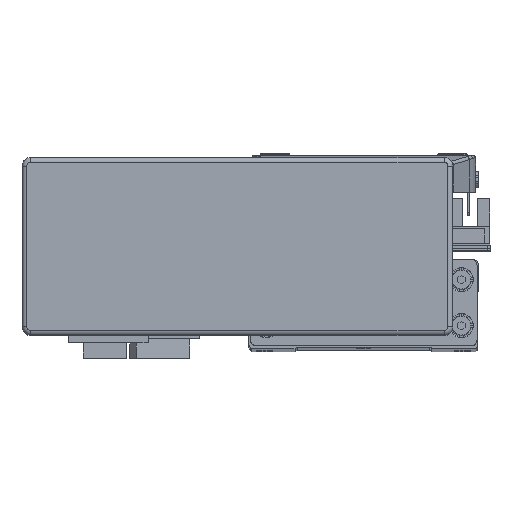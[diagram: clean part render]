
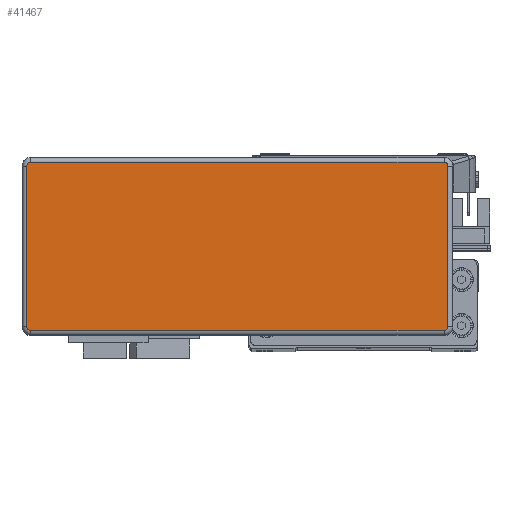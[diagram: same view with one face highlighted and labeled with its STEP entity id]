
A CAD part, top view. The second image highlights one B-rep face of the part: STEP entity #41467.
In plain terms, the highlighted planar face has unit normal (0, 0, 1) as drawn and (0, 0, -1) by its records, which use the part's own axes.
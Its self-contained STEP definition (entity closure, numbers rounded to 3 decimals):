
#3111 = PLANE ( 'NONE',  #5367 ) ;
#3116 = DIRECTION ( 'NONE',  ( 0., 0., 1. ) ) ;
#3137 = CARTESIAN_POINT ( 'NONE',  ( 71.995, -27.995, -32.2 ) ) ;
#3140 = DIRECTION ( 'NONE',  ( 1., 0., 0. ) ) ;
#4293 = FACE_OUTER_BOUND ( 'NONE', #28814, .T. ) ;
#5367 = AXIS2_PLACEMENT_3D ( 'NONE', #3137, #3116, #3140 ) ;
#10775 = VERTEX_POINT ( 'NONE', #22468 ) ;
#10781 = VERTEX_POINT ( 'NONE', #22442 ) ;
#10784 = VERTEX_POINT ( 'NONE', #22475 ) ;
#10785 = VERTEX_POINT ( 'NONE', #22481 ) ;
#10813 = VERTEX_POINT ( 'NONE', #22459 ) ;
#10820 = VERTEX_POINT ( 'NONE', #22453 ) ;
#10821 = VERTEX_POINT ( 'NONE', #22493 ) ;
#10835 = VERTEX_POINT ( 'NONE', #22444 ) ;
#16071 = EDGE_CURVE ( 'NONE', #10784, #10821, #23158, .T. ) ;
#16082 = EDGE_CURVE ( 'NONE', #10785, #10784, #23256, .T. ) ;
#16112 = EDGE_CURVE ( 'NONE', #10775, #10785, #23209, .T. ) ;
#16138 = EDGE_CURVE ( 'NONE', #10813, #10820, #23331, .T. ) ;
#16146 = EDGE_CURVE ( 'NONE', #10820, #10781, #23335, .T. ) ;
#16150 = EDGE_CURVE ( 'NONE', #10835, #10813, #23324, .T. ) ;
#16152 = EDGE_CURVE ( 'NONE', #10821, #10835, #23302, .T. ) ;
#16158 = EDGE_CURVE ( 'NONE', #10781, #10775, #23294, .T. ) ;
#22442 = CARTESIAN_POINT ( 'NONE',  ( 73.295, -27.995, -32.2 ) ) ;
#22444 = CARTESIAN_POINT ( 'NONE',  ( -71.995, 29.295, -32.2 ) ) ;
#22453 = CARTESIAN_POINT ( 'NONE',  ( 73.295, 27.995, -32.2 ) ) ;
#22459 = CARTESIAN_POINT ( 'NONE',  ( 71.995, 29.295, -32.2 ) ) ;
#22468 = CARTESIAN_POINT ( 'NONE',  ( 71.995, -29.295, -32.2 ) ) ;
#22475 = CARTESIAN_POINT ( 'NONE',  ( -73.295, -27.995, -32.2 ) ) ;
#22481 = CARTESIAN_POINT ( 'NONE',  ( -71.995, -29.295, -32.2 ) ) ;
#22493 = CARTESIAN_POINT ( 'NONE',  ( -73.295, 27.995, -32.2 ) ) ;
#23157 = VECTOR ( 'NONE', #27453, 1000. ) ;
#23158 = LINE ( 'NONE', #27405, #23157 ) ;
#23209 = LINE ( 'NONE', #27647, #23235 ) ;
#23235 = VECTOR ( 'NONE', #27584, 1000. ) ;
#23256 = CIRCLE ( 'NONE', #26164, 1.3 ) ;
#23289 = VECTOR ( 'NONE', #27869, 1000. ) ;
#23294 = CIRCLE ( 'NONE', #26148, 1.3 ) ;
#23295 = VECTOR ( 'NONE', #27814, 1000. ) ;
#23302 = CIRCLE ( 'NONE', #26136, 1.3 ) ;
#23324 = LINE ( 'NONE', #27873, #23289 ) ;
#23331 = CIRCLE ( 'NONE', #26174, 1.3 ) ;
#23335 = LINE ( 'NONE', #27835, #23295 ) ;
#26136 = AXIS2_PLACEMENT_3D ( 'NONE', #27918, #27852, #27862 ) ;
#26148 = AXIS2_PLACEMENT_3D ( 'NONE', #27923, #27903, #27854 ) ;
#26164 = AXIS2_PLACEMENT_3D ( 'NONE', #27381, #27407, #27394 ) ;
#26174 = AXIS2_PLACEMENT_3D ( 'NONE', #27796, #27824, #27828 ) ;
#27381 = CARTESIAN_POINT ( 'NONE',  ( -71.995, -27.995, -32.2 ) ) ;
#27394 = DIRECTION ( 'NONE',  ( 1., 0., 0. ) ) ;
#27405 = CARTESIAN_POINT ( 'NONE',  ( -73.295, -27.995, -32.2 ) ) ;
#27407 = DIRECTION ( 'NONE',  ( 0., 0., -1. ) ) ;
#27453 = DIRECTION ( 'NONE',  ( 0., 1., 0. ) ) ;
#27584 = DIRECTION ( 'NONE',  ( -1., 0., 0. ) ) ;
#27647 = CARTESIAN_POINT ( 'NONE',  ( 71.995, -29.295, -32.2 ) ) ;
#27796 = CARTESIAN_POINT ( 'NONE',  ( 71.995, 27.995, -32.2 ) ) ;
#27814 = DIRECTION ( 'NONE',  ( 0., -1., 0. ) ) ;
#27824 = DIRECTION ( 'NONE',  ( 0., 0., -1. ) ) ;
#27828 = DIRECTION ( 'NONE',  ( 1., 0., 0. ) ) ;
#27835 = CARTESIAN_POINT ( 'NONE',  ( 73.295, -27.995, -32.2 ) ) ;
#27852 = DIRECTION ( 'NONE',  ( 0., 0., -1. ) ) ;
#27854 = DIRECTION ( 'NONE',  ( 1., 0., 0. ) ) ;
#27862 = DIRECTION ( 'NONE',  ( 1., 0., 0. ) ) ;
#27869 = DIRECTION ( 'NONE',  ( 1., 0., 0. ) ) ;
#27873 = CARTESIAN_POINT ( 'NONE',  ( 71.995, 29.295, -32.2 ) ) ;
#27903 = DIRECTION ( 'NONE',  ( 0., 0., -1. ) ) ;
#27918 = CARTESIAN_POINT ( 'NONE',  ( -71.995, 27.995, -32.2 ) ) ;
#27923 = CARTESIAN_POINT ( 'NONE',  ( 71.995, -27.995, -32.2 ) ) ;
#28814 = EDGE_LOOP ( 'NONE', ( #39105, #39075, #39033, #39121, #39057, #39017, #39107, #39131 ) ) ;
#39017 = ORIENTED_EDGE ( 'NONE', *, *, #16152, .T. ) ;
#39033 = ORIENTED_EDGE ( 'NONE', *, *, #16112, .T. ) ;
#39057 = ORIENTED_EDGE ( 'NONE', *, *, #16071, .T. ) ;
#39075 = ORIENTED_EDGE ( 'NONE', *, *, #16158, .T. ) ;
#39105 = ORIENTED_EDGE ( 'NONE', *, *, #16146, .T. ) ;
#39107 = ORIENTED_EDGE ( 'NONE', *, *, #16150, .T. ) ;
#39121 = ORIENTED_EDGE ( 'NONE', *, *, #16082, .T. ) ;
#39131 = ORIENTED_EDGE ( 'NONE', *, *, #16138, .T. ) ;
#41467 = ADVANCED_FACE ( 'NONE', ( #4293 ), #3111, .F. ) ;
